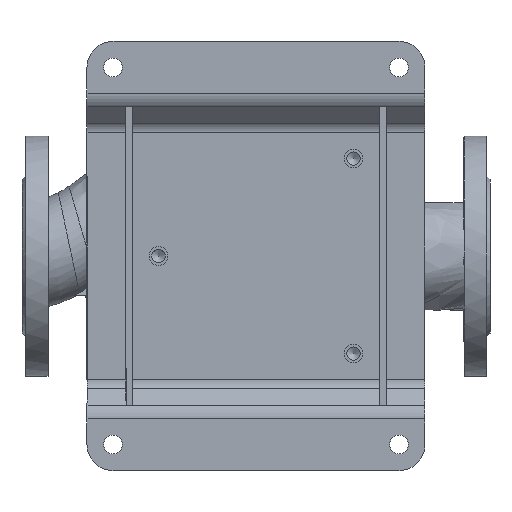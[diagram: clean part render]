
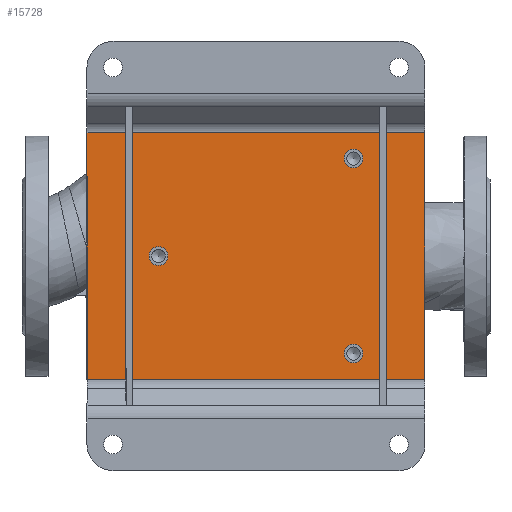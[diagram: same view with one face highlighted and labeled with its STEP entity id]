
A CAD part, top view. The second image highlights one B-rep face of the part: STEP entity #15728.
In plain terms, the highlighted planar face has unit normal (0, 0, 1) as drawn and (0, -1, 0) by its records, which use the part's own axes.
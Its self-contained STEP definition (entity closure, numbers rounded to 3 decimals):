
#907 = CARTESIAN_POINT ( 'NONE',  ( 95., -5., -130. ) ) ;
#960 = VERTEX_POINT ( 'NONE', #7836 ) ;
#1461 = ORIENTED_EDGE ( 'NONE', *, *, #24248, .F. ) ;
#1522 = VECTOR ( 'NONE', #24967, 1000. ) ;
#1698 = EDGE_CURVE ( 'NONE', #24548, #21098, #21834, .T. ) ;
#2759 = DIRECTION ( 'NONE',  ( -1., 0., 0. ) ) ;
#3338 = CARTESIAN_POINT ( 'NONE',  ( 0., -5., -82.25 ) ) ;
#4774 = EDGE_LOOP ( 'NONE', ( #33687, #7358, #11959, #28128 ) ) ;
#5125 = LINE ( 'NONE', #8371, #1522 ) ;
#5258 = CARTESIAN_POINT ( 'NONE',  ( -95., -5., 130. ) ) ;
#5537 = LINE ( 'NONE', #12831, #20912 ) ;
#5590 = FACE_BOUND ( 'NONE', #9306, .T. ) ;
#5806 = FACE_BOUND ( 'NONE', #30388, .T. ) ;
#6985 = VERTEX_POINT ( 'NONE', #3338 ) ;
#7358 = ORIENTED_EDGE ( 'NONE', *, *, #1698, .F. ) ;
#7836 = CARTESIAN_POINT ( 'NONE',  ( 75., -5., 67.75 ) ) ;
#8371 = CARTESIAN_POINT ( 'NONE',  ( 95., -5., 130. ) ) ;
#9041 = PLANE ( 'NONE',  #16289 ) ;
#9306 = EDGE_LOOP ( 'NONE', ( #11063 ) ) ;
#9403 = CARTESIAN_POINT ( 'NONE',  ( 95., -5., 130. ) ) ;
#9805 = CARTESIAN_POINT ( 'NONE',  ( -75., -5., 67.75 ) ) ;
#11063 = ORIENTED_EDGE ( 'NONE', *, *, #32296, .F. ) ;
#11959 = ORIENTED_EDGE ( 'NONE', *, *, #36142, .F. ) ;
#12831 = CARTESIAN_POINT ( 'NONE',  ( -95., -5., -130. ) ) ;
#13092 = AXIS2_PLACEMENT_3D ( 'NONE', #37948, #31874, #34917 ) ;
#13905 = CARTESIAN_POINT ( 'NONE',  ( 0., -5., -75. ) ) ;
#14624 = CARTESIAN_POINT ( 'NONE',  ( -95., -5., -130. ) ) ;
#14891 = CIRCLE ( 'NONE', #17629, 7.25 ) ;
#15292 = CARTESIAN_POINT ( 'NONE',  ( 0., -5., 0. ) ) ;
#15347 = CARTESIAN_POINT ( 'NONE',  ( -95., -5., 130. ) ) ;
#15728 = ADVANCED_FACE ( 'NONE', ( #5590, #5806, #32509, #38364 ), #9041, .T. ) ;
#15976 = DIRECTION ( 'NONE',  ( 1., 0., 0. ) ) ;
#16289 = AXIS2_PLACEMENT_3D ( 'NONE', #15292, #38576, #18942 ) ;
#16756 = AXIS2_PLACEMENT_3D ( 'NONE', #36054, #29601, #22708 ) ;
#17629 = AXIS2_PLACEMENT_3D ( 'NONE', #13905, #33750, #39592 ) ;
#18015 = EDGE_CURVE ( 'NONE', #6985, #6985, #14891, .T. ) ;
#18319 = VECTOR ( 'NONE', #34264, 1000. ) ;
#18327 = VERTEX_POINT ( 'NONE', #907 ) ;
#18942 = DIRECTION ( 'NONE',  ( 0., 0., -1. ) ) ;
#19529 = CIRCLE ( 'NONE', #16756, 7.25 ) ;
#20912 = VECTOR ( 'NONE', #2759, 1000. ) ;
#21098 = VERTEX_POINT ( 'NONE', #9403 ) ;
#21114 = CARTESIAN_POINT ( 'NONE',  ( -95., -5., 130. ) ) ;
#21376 = CIRCLE ( 'NONE', #13092, 7.25 ) ;
#21834 = LINE ( 'NONE', #15347, #31579 ) ;
#22708 = DIRECTION ( 'NONE',  ( 0., 0., -1. ) ) ;
#24248 = EDGE_CURVE ( 'NONE', #39332, #39332, #21376, .T. ) ;
#24548 = VERTEX_POINT ( 'NONE', #5258 ) ;
#24967 = DIRECTION ( 'NONE',  ( 0., 0., -1. ) ) ;
#25602 = EDGE_LOOP ( 'NONE', ( #1461 ) ) ;
#25947 = EDGE_CURVE ( 'NONE', #21098, #18327, #5125, .T. ) ;
#28128 = ORIENTED_EDGE ( 'NONE', *, *, #32941, .F. ) ;
#29506 = ORIENTED_EDGE ( 'NONE', *, *, #18015, .F. ) ;
#29601 = DIRECTION ( 'NONE',  ( 0., -1., 0. ) ) ;
#30388 = EDGE_LOOP ( 'NONE', ( #29506 ) ) ;
#30575 = LINE ( 'NONE', #21114, #18319 ) ;
#31579 = VECTOR ( 'NONE', #15976, 1000. ) ;
#31874 = DIRECTION ( 'NONE',  ( 0., -1., 0. ) ) ;
#32296 = EDGE_CURVE ( 'NONE', #960, #960, #19529, .T. ) ;
#32509 = FACE_BOUND ( 'NONE', #25602, .T. ) ;
#32941 = EDGE_CURVE ( 'NONE', #18327, #42360, #5537, .T. ) ;
#33687 = ORIENTED_EDGE ( 'NONE', *, *, #25947, .F. ) ;
#33750 = DIRECTION ( 'NONE',  ( 0., -1., 0. ) ) ;
#34264 = DIRECTION ( 'NONE',  ( 0., 0., 1. ) ) ;
#34917 = DIRECTION ( 'NONE',  ( 0., 0., -1. ) ) ;
#36054 = CARTESIAN_POINT ( 'NONE',  ( 75., -5., 75. ) ) ;
#36142 = EDGE_CURVE ( 'NONE', #42360, #24548, #30575, .T. ) ;
#37948 = CARTESIAN_POINT ( 'NONE',  ( -75., -5., 75. ) ) ;
#38364 = FACE_OUTER_BOUND ( 'NONE', #4774, .T. ) ;
#38576 = DIRECTION ( 'NONE',  ( 0., -1., 0. ) ) ;
#39332 = VERTEX_POINT ( 'NONE', #9805 ) ;
#39592 = DIRECTION ( 'NONE',  ( 0., 0., -1. ) ) ;
#42360 = VERTEX_POINT ( 'NONE', #14624 ) ;
